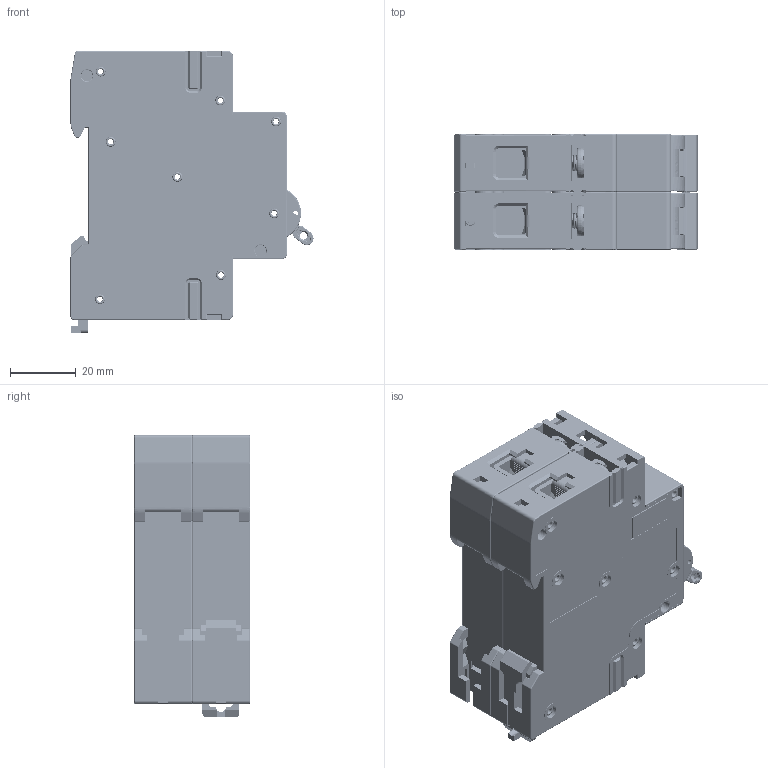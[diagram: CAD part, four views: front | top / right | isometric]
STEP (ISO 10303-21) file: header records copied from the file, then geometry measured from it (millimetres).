
FILE_DESCRIPTION (( 'STEP AP214' ), '1' );
FILE_NAME ('TDA-2B-1.STEP', '2026-05-26T12:21:09', ( '' ), ( '' ), 'SwSTEP 2.0', 'SolidWorks 2025', '' );
FILE_SCHEMA (( 'AUTOMOTIVE_DESIGN' ));
Length unit declared in the file: millimetre
Products named in the file (1): TDA-2B-1
Bounding box: 74.14 x 35.4 x 86 mm (x, y, z)
Volume: 56994.9 mm3; surface area: 83828.2 mm2
Topology: 43 solids, 47 shells, 4819 faces, 13997 edges, 9409 vertices
Faces by surface type: plane 2786, cylinder 1460, bspline 268, torus 176, cone 129
Entity records: 255448 total; most frequent: CARTESIAN_POINT 81574, ORIENTED_EDGE 27930, DIRECTION 22777, EDGE_CURVE 13965, VERTEX_POINT 9409, VECTOR 8379, LINE 8379, AXIS2_PLACEMENT_3D 7199
